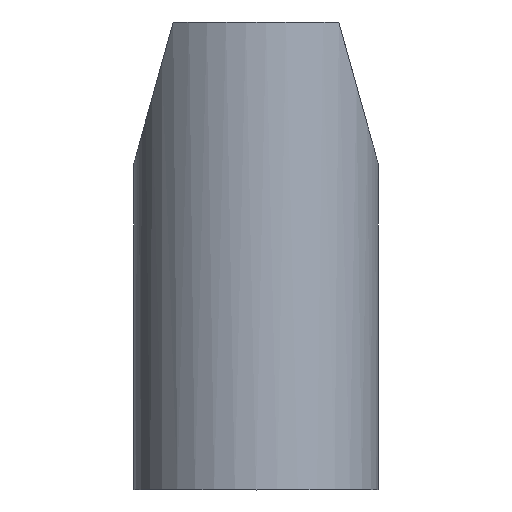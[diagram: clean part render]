
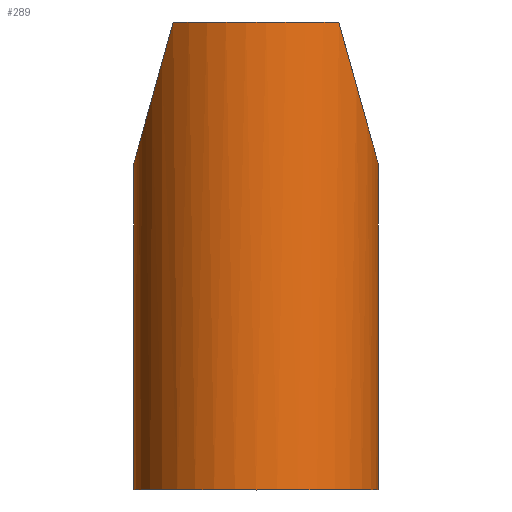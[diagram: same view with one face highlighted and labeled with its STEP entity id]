
A CAD part, top view. The second image highlights one B-rep face of the part: STEP entity #289.
In plain terms, the highlighted cylindrical face has radius 9.15 mm (diameter 18.3 mm), a partial arc.
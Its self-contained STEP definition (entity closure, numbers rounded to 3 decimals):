
#25 = CARTESIAN_POINT ( 'NONE',  ( -43.15, -12.6, 217.5 ) ) ;
#31 = VERTEX_POINT ( 'NONE', #295 ) ;
#32 = LINE ( 'NONE', #117, #363 ) ;
#36 = EDGE_CURVE ( 'NONE', #177, #351, #32, .T. ) ;
#39 =( BOUNDED_CURVE ( )  B_SPLINE_CURVE ( 3, ( #375, #161, #346, #275 ),
 .UNSPECIFIED., .F., .F. ) 
 B_SPLINE_CURVE_WITH_KNOTS ( ( 4, 4 ),
 ( 2.315, 3.142 ),
 .UNSPECIFIED. ) 
 CURVE ( )  GEOMETRIC_REPRESENTATION_ITEM ( )  RATIONAL_B_SPLINE_CURVE ( ( 1., 0.944, 0.944, 1. ) ) 
 REPRESENTATION_ITEM ( '' )  );
#45 = ORIENTED_EDGE ( 'NONE', *, *, #58, .T. ) ;
#58 = EDGE_CURVE ( 'NONE', #31, #177, #147, .T. ) ;
#66 = CARTESIAN_POINT ( 'NONE',  ( -40.2, -2., 224.229 ) ) ;
#67 = DIRECTION ( 'NONE',  ( 1., 0., 0. ) ) ;
#68 = FACE_OUTER_BOUND ( 'NONE', #111, .T. ) ;
#69 = EDGE_CURVE ( 'NONE', #260, #234, #162, .T. ) ;
#88 = CARTESIAN_POINT ( 'NONE',  ( -24.85, -12.6, 217.5 ) ) ;
#98 = LINE ( 'NONE', #269, #245 ) ;
#111 = EDGE_LOOP ( 'NONE', ( #314, #45, #227, #379, #356, #199 ) ) ;
#112 = EDGE_CURVE ( 'NONE', #31, #285, #98, .T. ) ;
#115 = AXIS2_PLACEMENT_3D ( 'NONE', #180, #335, #67 ) ;
#117 = CARTESIAN_POINT ( 'NONE',  ( -24.85, -37., 217.5 ) ) ;
#120 = CARTESIAN_POINT ( 'NONE',  ( -43.15, -12.6, 220.095 ) ) ;
#122 = DIRECTION ( 'NONE',  ( 1., 0., 0. ) ) ;
#128 = DIRECTION ( 'NONE',  ( 1., 0., 0. ) ) ;
#131 = CARTESIAN_POINT ( 'NONE',  ( -27.8, -2., 224.229 ) ) ;
#145 = DIRECTION ( 'NONE',  ( 0., 1., 0. ) ) ;
#146 = EDGE_CURVE ( 'NONE', #285, #260, #166, .T. ) ;
#147 = CIRCLE ( 'NONE', #115, 9.15 ) ;
#148 = CARTESIAN_POINT ( 'NONE',  ( -43.15, -12.6, 217.5 ) ) ;
#161 = CARTESIAN_POINT ( 'NONE',  ( -25.892, -8.857, 222.471 ) ) ;
#162 = CIRCLE ( 'NONE', #384, 9.15 ) ;
#166 =( BOUNDED_CURVE ( )  B_SPLINE_CURVE ( 3, ( #148, #120, #266, #66 ),
 .UNSPECIFIED., .F., .F. ) 
 B_SPLINE_CURVE_WITH_KNOTS ( ( 4, 4 ),
 ( 3.142, 3.968 ),
 .UNSPECIFIED. ) 
 CURVE ( )  GEOMETRIC_REPRESENTATION_ITEM ( )  RATIONAL_B_SPLINE_CURVE ( ( 1., 0.944, 0.944, 1. ) ) 
 REPRESENTATION_ITEM ( '' )  );
#170 = AXIS2_PLACEMENT_3D ( 'NONE', #307, #273, #128 ) ;
#177 = VERTEX_POINT ( 'NONE', #238 ) ;
#180 = CARTESIAN_POINT ( 'NONE',  ( -34., -37., 217.5 ) ) ;
#187 = CYLINDRICAL_SURFACE ( 'NONE', #170, 9.15 ) ;
#199 = ORIENTED_EDGE ( 'NONE', *, *, #146, .F. ) ;
#210 = DIRECTION ( 'NONE',  ( 0., 1., 0. ) ) ;
#227 = ORIENTED_EDGE ( 'NONE', *, *, #36, .T. ) ;
#234 = VERTEX_POINT ( 'NONE', #131 ) ;
#236 = EDGE_CURVE ( 'NONE', #234, #351, #39, .T. ) ;
#238 = CARTESIAN_POINT ( 'NONE',  ( -24.85, -37., 217.5 ) ) ;
#243 = CARTESIAN_POINT ( 'NONE',  ( -34., -2., 217.5 ) ) ;
#245 = VECTOR ( 'NONE', #210, 1000. ) ;
#260 = VERTEX_POINT ( 'NONE', #287 ) ;
#265 = DIRECTION ( 'NONE',  ( 0., 1., 0. ) ) ;
#266 = CARTESIAN_POINT ( 'NONE',  ( -42.108, -8.857, 222.471 ) ) ;
#269 = CARTESIAN_POINT ( 'NONE',  ( -43.15, -37., 217.5 ) ) ;
#273 = DIRECTION ( 'NONE',  ( 0., 1., 0. ) ) ;
#275 = CARTESIAN_POINT ( 'NONE',  ( -24.85, -12.6, 217.5 ) ) ;
#285 = VERTEX_POINT ( 'NONE', #25 ) ;
#287 = CARTESIAN_POINT ( 'NONE',  ( -40.2, -2., 224.229 ) ) ;
#289 = ADVANCED_FACE ( 'NONE', ( #68 ), #187, .T. ) ;
#295 = CARTESIAN_POINT ( 'NONE',  ( -43.15, -37., 217.5 ) ) ;
#307 = CARTESIAN_POINT ( 'NONE',  ( -34., -37., 217.5 ) ) ;
#314 = ORIENTED_EDGE ( 'NONE', *, *, #112, .F. ) ;
#335 = DIRECTION ( 'NONE',  ( 0., 1., 0. ) ) ;
#346 = CARTESIAN_POINT ( 'NONE',  ( -24.85, -12.6, 220.095 ) ) ;
#351 = VERTEX_POINT ( 'NONE', #88 ) ;
#356 = ORIENTED_EDGE ( 'NONE', *, *, #69, .F. ) ;
#363 = VECTOR ( 'NONE', #145, 1000. ) ;
#375 = CARTESIAN_POINT ( 'NONE',  ( -27.8, -2., 224.229 ) ) ;
#379 = ORIENTED_EDGE ( 'NONE', *, *, #236, .F. ) ;
#384 = AXIS2_PLACEMENT_3D ( 'NONE', #243, #265, #122 ) ;
